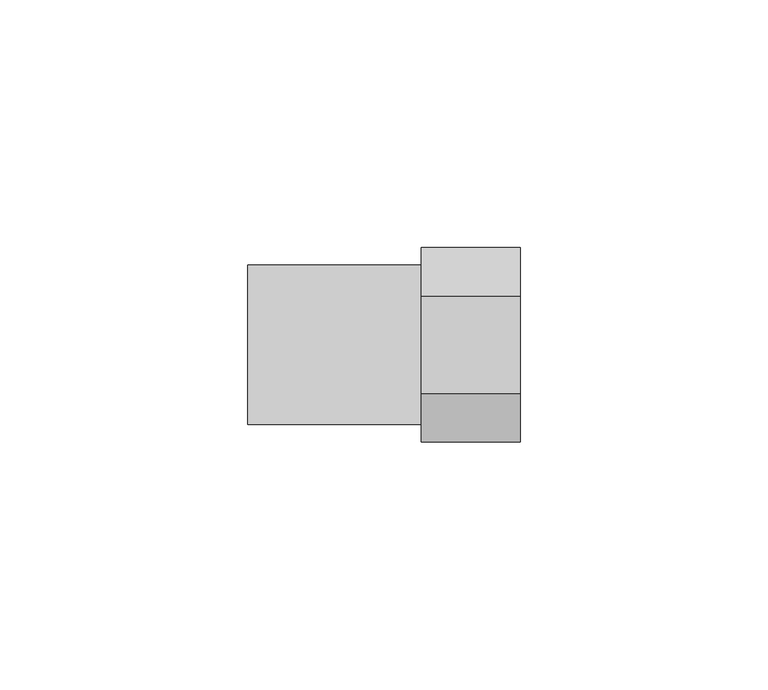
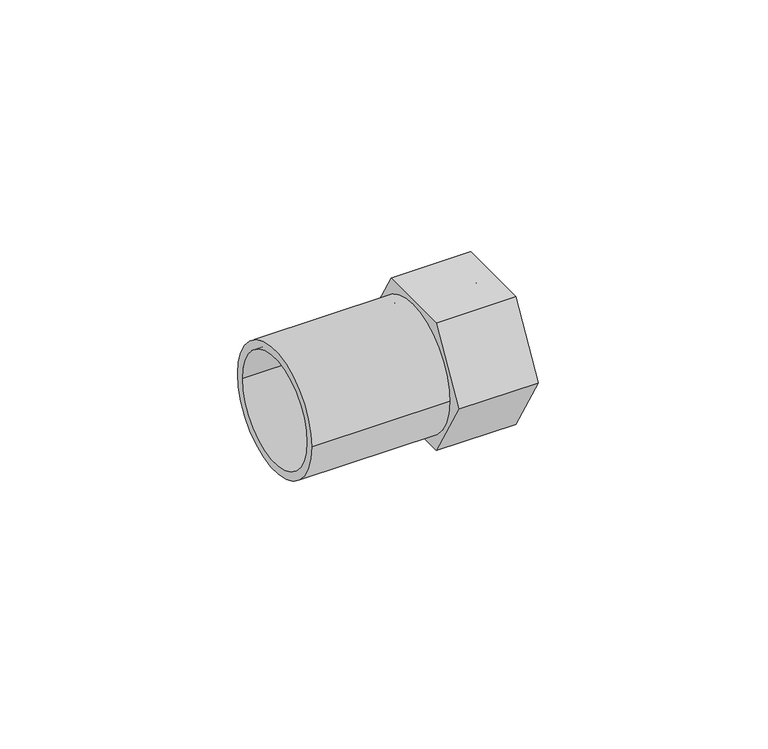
"""IFC4 building model written with IfcOpenShell, lengths in millimetres: pipe fitting geometry, VALTEC_VTi.907.I_Вставка с внутренней резьбой_Нержавеющая сталь : VTi.907.I."""

from ifc_helpers import new_model, si_unit, point, frame, origin, origin_2d, place, context, project, spatial, polyline, circle_curve, trimmed, segment, composite_curve, outline, extrude, source, transform, mapped, element, save


def pipe_fitting_da72d950(model_context):
    return source(origin(), model_context, "Body", "SweptSolid", [
        extrude(outline(polyline([(-19.6299092, 0.0), (-9.8149546, 17.0), (9.8149546, 17.0), (19.6299092, 0.0), (9.8149546, -17.0), (-9.8149546, -17.0), (-19.6299092, 0.0)]), holes=[composite_curve([segment(trimmed(circle_curve(origin_2d(), 12.5), [point((12.5, 0.0))], [point((-12.5, 0.0))], True, "CARTESIAN"), True, "CONTINUOUS"), segment(trimmed(circle_curve(origin_2d(), 12.5), [point((-12.5, 0.0))], [point((12.5, 0.0))], True, "CARTESIAN"), True, "CONTINUOUS")], self_intersect=False)]), frame((-10.0, 0.0, 0.0), z_axis=(1.0, 0.0, 0.0), x_axis=(0.0, 1.0, 0.0)), (0.0, 0.0, 1.0), 20.0),
        extrude(outline(composite_curve([segment(trimmed(circle_curve(origin_2d(), 16.1), [point((-16.1, 0.0))], [point((16.1, 0.0))], False, "CARTESIAN"), True, "CONTINUOUS"), segment(trimmed(circle_curve(origin_2d(), 16.1), [point((16.1, 0.0))], [point((-16.1, 0.0))], False, "CARTESIAN"), True, "CONTINUOUS")], self_intersect=False), holes=[composite_curve([segment(trimmed(circle_curve(origin_2d(), 14.0), [point((-14.0, 0.0))], [point((14.0, 0.0))], True, "CARTESIAN"), True, "CONTINUOUS"), segment(trimmed(circle_curve(origin_2d(), 14.0), [point((14.0, 0.0))], [point((-14.0, 0.0))], True, "CARTESIAN"), True, "CONTINUOUS")], self_intersect=False)]), frame((-45.0, 0.0, 0.0), z_axis=(1.0, 0.0, 0.0), x_axis=(0.0, 1.0, 0.0)), (0.0, 0.0, 1.0), 35.0),
    ])


if __name__ == "__main__":
    model = new_model("IFC4")
    model_context = context("Model", 3, world=origin())
    ifc_project = project(units=[si_unit("LENGTHUNIT", "METRE", prefix="MILLI")], contexts=[model_context])
    site = spatial("IfcSite", under=ifc_project)
    building = spatial("IfcBuilding", under=site)
    placement = place(None, origin())
    pipe_fitting_shape = pipe_fitting_da72d950(model_context)
    element("IfcPipeFitting", 1, ObjectType="VALTEC_VTi.907.I_Вставка с внутренней резьбой_Нержавеющая сталь : VTi.907.I", at=placement, inside=building, context=model_context, shape_type="MappedRepresentation", body=[
        mapped(pipe_fitting_shape, transform((0.0, 0.0, 0.0), x_axis=(1.0, 0.0, 0.0), y_axis=(0.0, 1.0, 0.0), z_axis=(0.0, 0.0, 1.0))),
    ])
    save(model, "model.ifc")
